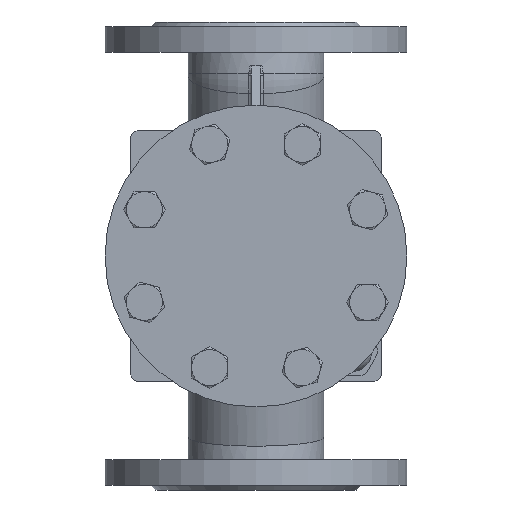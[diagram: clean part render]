
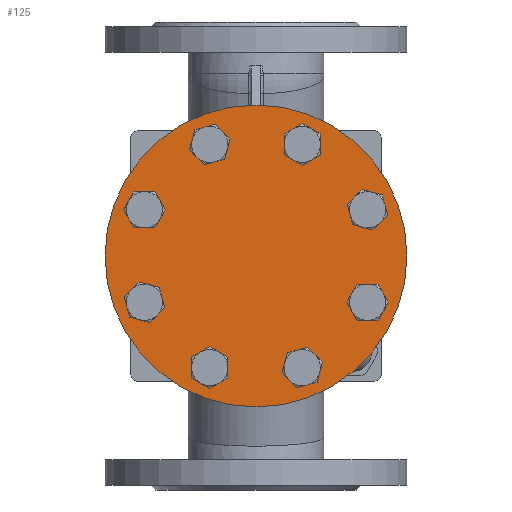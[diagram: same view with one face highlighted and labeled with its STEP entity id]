
A CAD part, front view. The second image highlights one B-rep face of the part: STEP entity #125.
In plain terms, the highlighted planar face has unit normal (0, -1, 0).
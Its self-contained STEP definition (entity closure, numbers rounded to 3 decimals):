
#125=ADVANCED_FACE('',(#10120,#10122,#10124,#10126,#10128,#10130,#10132,#10134,#10136),
#10138,.F.);
#10120=FACE_BOUND('',#10121,.T.);
#10121=EDGE_LOOP('',(#23638));
#10122=FACE_BOUND('',#10123,.T.);
#10123=EDGE_LOOP('',(#23639));
#10124=FACE_BOUND('',#10125,.T.);
#10125=EDGE_LOOP('',(#23640));
#10126=FACE_BOUND('',#10127,.T.);
#10127=EDGE_LOOP('',(#23641));
#10128=FACE_BOUND('',#10129,.T.);
#10129=EDGE_LOOP('',(#23642));
#10130=FACE_BOUND('',#10131,.T.);
#10131=EDGE_LOOP('',(#23643));
#10132=FACE_BOUND('',#10133,.T.);
#10133=EDGE_LOOP('',(#23644));
#10134=FACE_BOUND('',#10135,.T.);
#10135=EDGE_LOOP('',(#23645));
#10136=FACE_BOUND('',#10137,.T.);
#10137=EDGE_LOOP('',(#23646));
#10138=PLANE('',#10139);
#10139=AXIS2_PLACEMENT_3D('',#10140,#10141,#10142);
#10140=CARTESIAN_POINT('',(0.,-175.,0.));
#10141=DIRECTION('',(0.,1.,0.));
#10142=DIRECTION('',(1.,0.,0.));
#23638=ORIENTED_EDGE('',*,*,#31331,.F.);
#23639=ORIENTED_EDGE('',*,*,#31332,.F.);
#23640=ORIENTED_EDGE('',*,*,#31333,.F.);
#23641=ORIENTED_EDGE('',*,*,#31334,.F.);
#23642=ORIENTED_EDGE('',*,*,#31335,.F.);
#23643=ORIENTED_EDGE('',*,*,#31336,.F.);
#23644=ORIENTED_EDGE('',*,*,#31337,.F.);
#23645=ORIENTED_EDGE('',*,*,#31338,.F.);
#23646=ORIENTED_EDGE('',*,*,#31339,.F.);
#31331=EDGE_CURVE('',#34927,#34927,#34928,.T.);
#31332=EDGE_CURVE('',#34929,#34929,#34930,.T.);
#31333=EDGE_CURVE('',#34931,#34931,#34932,.T.);
#31334=EDGE_CURVE('',#34933,#34933,#34934,.T.);
#31335=EDGE_CURVE('',#34935,#34935,#34936,.T.);
#31336=EDGE_CURVE('',#34937,#34937,#34938,.T.);
#31337=EDGE_CURVE('',#34939,#34939,#34940,.T.);
#31338=EDGE_CURVE('',#34941,#34941,#34942,.T.);
#31339=EDGE_CURVE('',#34943,#34943,#34944,.T.);
#34927=VERTEX_POINT('',#40891);
#34928=CIRCLE('',#40892,100.);
#34929=VERTEX_POINT('',#40896);
#34930=CIRCLE('',#40897,12.);
#34931=VERTEX_POINT('',#40901);
#34932=CIRCLE('',#40902,12.);
#34933=VERTEX_POINT('',#40906);
#34934=CIRCLE('',#40907,12.);
#34935=VERTEX_POINT('',#40911);
#34936=CIRCLE('',#40912,12.);
#34937=VERTEX_POINT('',#40916);
#34938=CIRCLE('',#40917,12.);
#34939=VERTEX_POINT('',#40921);
#34940=CIRCLE('',#40922,12.);
#34941=VERTEX_POINT('',#40926);
#34942=CIRCLE('',#40927,12.);
#34943=VERTEX_POINT('',#40931);
#34944=CIRCLE('',#40932,12.);
#40891=CARTESIAN_POINT('',(100.,-175.,0.));
#40892=AXIS2_PLACEMENT_3D('',#40893,#40894,#40895);
#40893=CARTESIAN_POINT('',(0.,-175.,0.));
#40894=DIRECTION('',(0.,1.,0.));
#40895=DIRECTION('',(1.,0.,0.));
#40896=CARTESIAN_POINT('',(-65.425,-175.,-39.1));
#40897=AXIS2_PLACEMENT_3D('',#40898,#40899,#40900);
#40898=CARTESIAN_POINT('',(-73.91,-175.,-30.615));
#40899=DIRECTION('',(0.,-1.,0.));
#40900=DIRECTION('',(0.707,0.,-0.707));
#40901=CARTESIAN_POINT('',(-39.1,-175.,65.425));
#40902=AXIS2_PLACEMENT_3D('',#40903,#40904,#40905);
#40903=CARTESIAN_POINT('',(-30.615,-175.,73.91));
#40904=DIRECTION('',(0.,-1.,0.));
#40905=DIRECTION('',(-0.707,0.,-0.707));
#40906=CARTESIAN_POINT('',(65.425,-175.,39.1));
#40907=AXIS2_PLACEMENT_3D('',#40908,#40909,#40910);
#40908=CARTESIAN_POINT('',(73.91,-175.,30.615));
#40909=DIRECTION('',(0.,-1.,0.));
#40910=DIRECTION('',(-0.707,0.,0.707));
#40911=CARTESIAN_POINT('',(39.1,-175.,-65.425));
#40912=AXIS2_PLACEMENT_3D('',#40913,#40914,#40915);
#40913=CARTESIAN_POINT('',(30.615,-175.,-73.91));
#40914=DIRECTION('',(0.,-1.,0.));
#40915=DIRECTION('',(0.707,0.,0.707));
#40916=CARTESIAN_POINT('',(-18.615,-175.,-73.91));
#40917=AXIS2_PLACEMENT_3D('',#40918,#40919,#40920);
#40918=CARTESIAN_POINT('',(-30.615,-175.,-73.91));
#40919=DIRECTION('',(0.,-1.,0.));
#40920=DIRECTION('',(1.,0.,0.));
#40921=CARTESIAN_POINT('',(-73.91,-175.,18.615));
#40922=AXIS2_PLACEMENT_3D('',#40923,#40924,#40925);
#40923=CARTESIAN_POINT('',(-73.91,-175.,30.615));
#40924=DIRECTION('',(0.,-1.,0.));
#40925=DIRECTION('',(0.,0.,-1.));
#40926=CARTESIAN_POINT('',(18.615,-175.,73.91));
#40927=AXIS2_PLACEMENT_3D('',#40928,#40929,#40930);
#40928=CARTESIAN_POINT('',(30.615,-175.,73.91));
#40929=DIRECTION('',(0.,-1.,0.));
#40930=DIRECTION('',(-1.,0.,0.));
#40931=CARTESIAN_POINT('',(73.91,-175.,-18.615));
#40932=AXIS2_PLACEMENT_3D('',#40933,#40934,#40935);
#40933=CARTESIAN_POINT('',(73.91,-175.,-30.615));
#40934=DIRECTION('',(0.,-1.,0.));
#40935=DIRECTION('',(0.,0.,1.));
